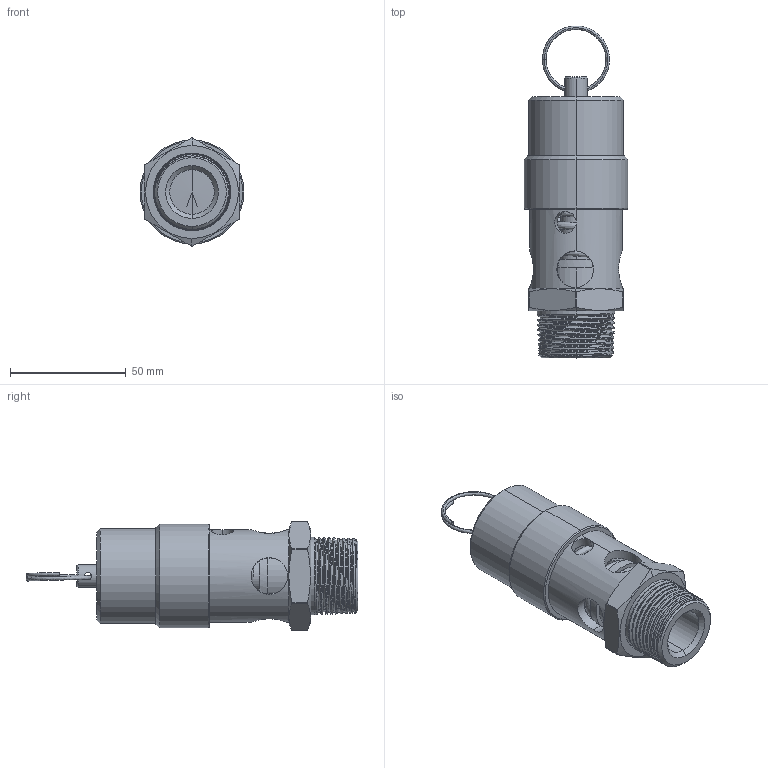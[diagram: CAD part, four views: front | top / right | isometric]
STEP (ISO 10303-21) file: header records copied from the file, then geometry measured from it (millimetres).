
FILE_DESCRIPTION (( 'STEP AP203' ), '1' );
FILE_NAME ('CV8-SERIES.STEP', '2017-12-19T19:45:04', ( '' ), ( '' ), 'SwSTEP 2.0', 'SolidWorks 2017', '' );
FILE_SCHEMA (( 'CONFIG_CONTROL_DESIGN' ));
Length unit declared in the file: inch
Products named in the file (1): CV8-SERIES
Bounding box: 44.96 x 143.69 x 47.04 mm (x, y, z)
Volume: 117976.6 mm3; surface area: 31020.6 mm2
Topology: 1 solids, 1 shells, 132 faces, 362 edges, 225 vertices
Faces by surface type: cone 51, cylinder 48, plane 24, bspline 7, torus 2
Entity records: 10703 total; most frequent: CARTESIAN_POINT 7521, ORIENTED_EDGE 716, DIRECTION 566, EDGE_CURVE 358, AXIS2_PLACEMENT_3D 233, VERTEX_POINT 225, EDGE_LOOP 147, B_SPLINE_CURVE_WITH_KNOTS 143
